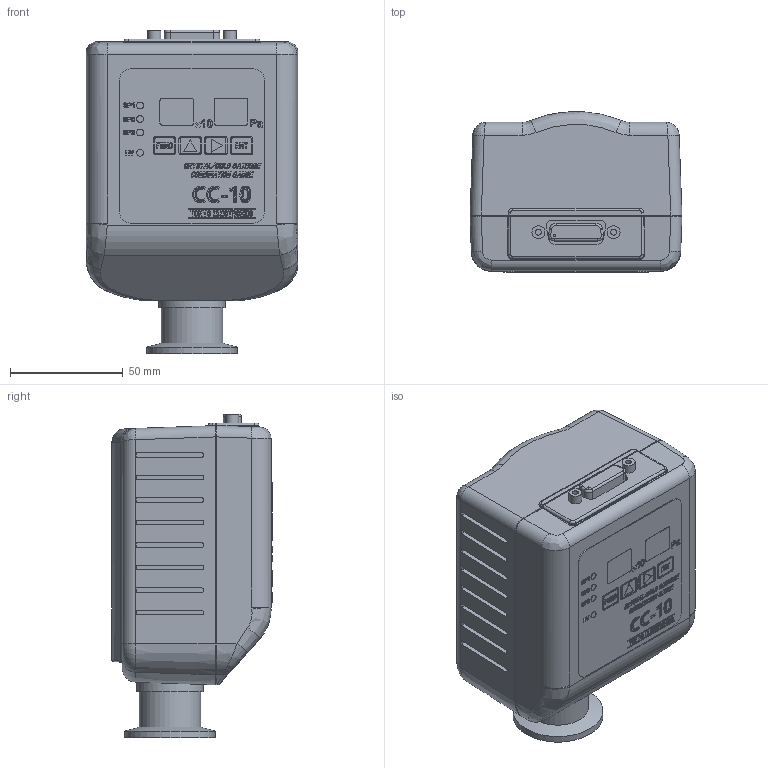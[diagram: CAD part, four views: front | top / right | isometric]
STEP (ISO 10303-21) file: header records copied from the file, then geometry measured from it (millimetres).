
FILE_DESCRIPTION(/* description */ (''),/* implementation_level */ '2;1');
FILE_NAME(/* name */ '',/* time_stamp */ '2023-09-21T14:51:20+09:00',/* author */ (''),/* organization */ (''),/* preprocessor_version */ 'ST-DEVELOPER v20',/* originating_system */ 'Autodesk Translation Framework v12.14.0.127',/* authorisation */ '');
FILE_SCHEMA (('AUTOMOTIVE_DESIGN { 1 0 10303 214 3 1 1 }'));
Products named in the file (2): CC-10外観図(NW25); CC-10-NW25
Assembly tree (1 placements, depth 2):
  CC-10外観図(NW25)
    CC-10-NW25
Bounding box: 94 x 71.36 x 143.6 mm (x, y, z)
Volume: 90694.7 mm3; surface area: 102393 mm2
Topology: 87 solids, 87 shells, 1839 faces, 4750 edges, 3122 vertices
Faces by surface type: plane 912, bspline 747, cylinder 151, cone 17, torus 12
Full cylindrical faces by diameter (mm): 2.6 x2, 3 x4, 5.8 x4, 23 x1, 25.6 x1, 26.2 x1, 27.2 x1, 29.6 x1, 40 x1
Entity records: 65153 total; most frequent: CARTESIAN_POINT 24864, ORIENTED_EDGE 9488, DIRECTION 5816, EDGE_CURVE 4744, VERTEX_POINT 3122, LINE 2912, VECTOR 2912, EDGE_LOOP 1946
